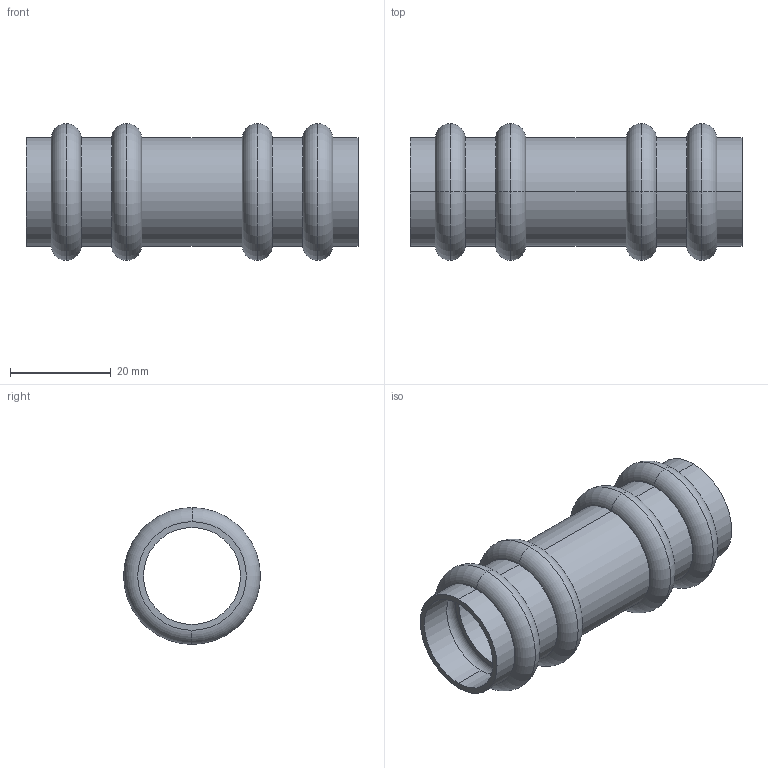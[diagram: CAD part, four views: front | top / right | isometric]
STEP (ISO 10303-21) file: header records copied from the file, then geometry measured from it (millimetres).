
FILE_DESCRIPTION(('starvars output'),'1');
FILE_NAME('cv20240422105202000011688.stp','10:52:03 2024/04/22',('Thomas Industrial Network Germany GmbH'),(' '),'Spatial InterOp 3D',' ',' ');
FILE_SCHEMA(('AUTOMOTIVE_DESIGN { 1 0 10303 214 3 1 1 }'));
Length unit declared in the file: millimetre
Products named in the file (1): 1
Bounding box: 66 x 27.2 x 27.2 mm (x, y, z)
Volume: 6658.3 mm3; surface area: 11297.2 mm2
Topology: 1 solids, 1 shells, 70 faces, 140 edges, 88 vertices
Faces by surface type: torus 32, cylinder 20, plane 18
Entity records: 2464 total; most frequent: DIRECTION 402, CARTESIAN_POINT 299, ORIENTED_EDGE 280, AXIS2_PLACEMENT_3D 191, EDGE_CURVE 140, CIRCLE 120, EDGE_LOOP 88, VERTEX_POINT 88
